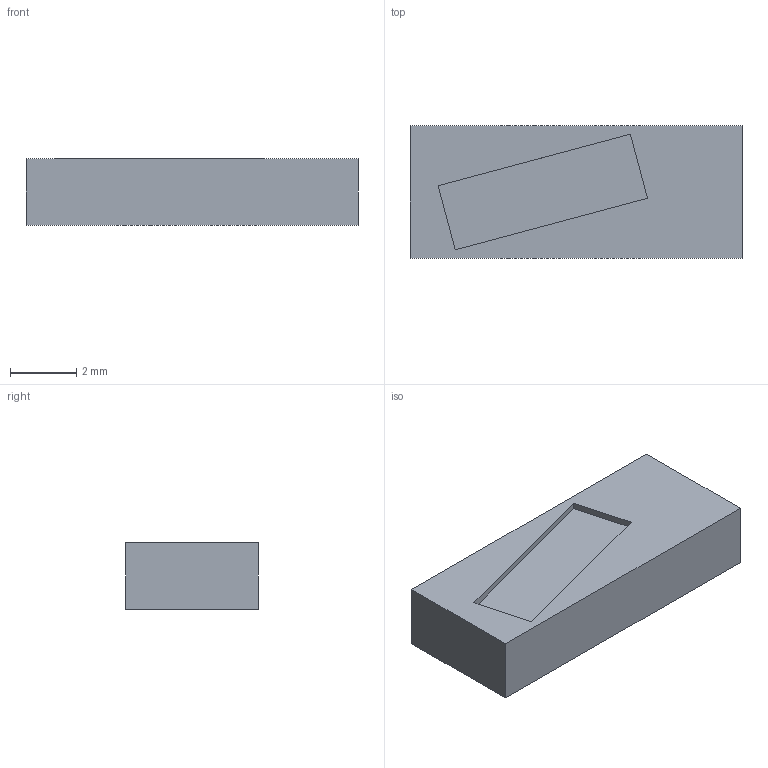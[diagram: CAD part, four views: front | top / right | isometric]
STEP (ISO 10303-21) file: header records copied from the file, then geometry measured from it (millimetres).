
FILE_DESCRIPTION(('Open CASCADE Model'),'2;1');
FILE_NAME('Open CASCADE Shape Model','2026-11-25T12:57:22',('Author'),( 'Open CASCADE'),'Open CASCADE STEP processor 8.0','Open CASCADE 8.0' ,'Unknown');
FILE_SCHEMA(('AP242_MANAGED_MODEL_BASED_3D_ENGINEERING_MIM_LF {1 0 10303 442 1 1 4 }' ));
Length unit declared in the file: millimetre
Products named in the file (1): plate
Bounding box: 10 x 4 x 2 mm (x, y, z)
Volume: 77.6 mm3; surface area: 139.2 mm2
Topology: 1 solids, 1 shells, 11 faces, 24 edges, 16 vertices
Faces by surface type: plane 11
Entity records: 621 total; most frequent: CARTESIAN_POINT 108, DIRECTION 88, LINE 64, VECTOR 64, ORIENTED_EDGE 48, PCURVE 48, DEFINITIONAL_REPRESENTATION 48, EDGE_CURVE 24
